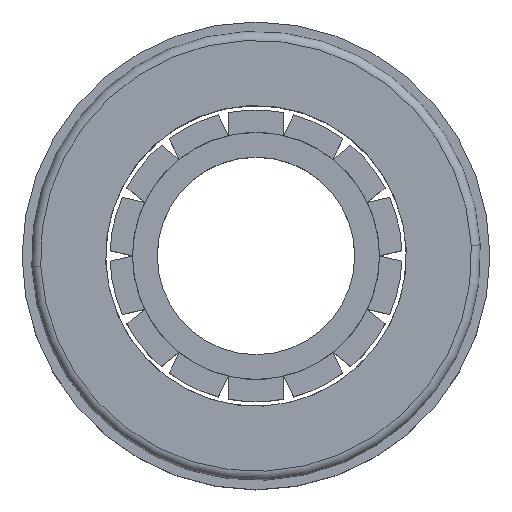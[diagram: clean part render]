
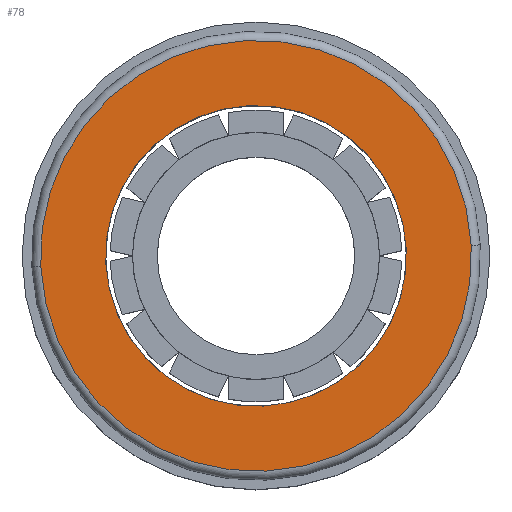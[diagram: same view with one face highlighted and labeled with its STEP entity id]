
A CAD part, top view. The second image highlights one B-rep face of the part: STEP entity #78.
In plain terms, the highlighted planar face has unit normal (0, 0, 1).
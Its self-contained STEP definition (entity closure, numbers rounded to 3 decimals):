
#78 = ADVANCED_FACE ( 'NONE', ( #631, #2009 ), #784, .T. ) ;
#89 = VERTEX_POINT ( 'NONE', #1174 ) ;
#288 = CARTESIAN_POINT ( 'NONE',  ( 0., 0., 4. ) ) ;
#320 = CARTESIAN_POINT ( 'NONE',  ( 0., 0., 4. ) ) ;
#354 = CARTESIAN_POINT ( 'NONE',  ( 0., 0., 4. ) ) ;
#366 = CARTESIAN_POINT ( 'NONE',  ( 24., 0., 4. ) ) ;
#370 = EDGE_CURVE ( 'NONE', #966, #1006, #573, .T. ) ;
#522 = DIRECTION ( 'NONE',  ( 0., 0., 1. ) ) ;
#566 = AXIS2_PLACEMENT_3D ( 'NONE', #320, #1952, #1212 ) ;
#573 = CIRCLE ( 'NONE', #1689, 24. ) ;
#579 = EDGE_CURVE ( 'NONE', #89, #1482, #918, .T. ) ;
#631 = FACE_OUTER_BOUND ( 'NONE', #1852, .T. ) ;
#675 = ORIENTED_EDGE ( 'NONE', *, *, #1701, .T. ) ;
#679 = EDGE_LOOP ( 'NONE', ( #1113, #2255 ) ) ;
#730 = EDGE_CURVE ( 'NONE', #1482, #89, #1888, .T. ) ;
#746 = CARTESIAN_POINT ( 'NONE',  ( 16.75, 0., 4. ) ) ;
#780 = AXIS2_PLACEMENT_3D ( 'NONE', #1865, #1841, #2066 ) ;
#784 = PLANE ( 'NONE',  #780 ) ;
#791 = ORIENTED_EDGE ( 'NONE', *, *, #370, .T. ) ;
#811 = AXIS2_PLACEMENT_3D ( 'NONE', #354, #522, #1451 ) ;
#918 = CIRCLE ( 'NONE', #566, 16.75 ) ;
#966 = VERTEX_POINT ( 'NONE', #2167 ) ;
#1006 = VERTEX_POINT ( 'NONE', #366 ) ;
#1113 = ORIENTED_EDGE ( 'NONE', *, *, #579, .F. ) ;
#1174 = CARTESIAN_POINT ( 'NONE',  ( -16.75, 0., 4. ) ) ;
#1212 = DIRECTION ( 'NONE',  ( 1., 0., 0. ) ) ;
#1419 = DIRECTION ( 'NONE',  ( 0., 0., 1. ) ) ;
#1451 = DIRECTION ( 'NONE',  ( 1., 0., 0. ) ) ;
#1482 = VERTEX_POINT ( 'NONE', #746 ) ;
#1540 = DIRECTION ( 'NONE',  ( 1., 0., 0. ) ) ;
#1576 = DIRECTION ( 'NONE',  ( 1., 0., 0. ) ) ;
#1604 = CIRCLE ( 'NONE', #2159, 24. ) ;
#1689 = AXIS2_PLACEMENT_3D ( 'NONE', #288, #1419, #1576 ) ;
#1701 = EDGE_CURVE ( 'NONE', #1006, #966, #1604, .T. ) ;
#1712 = CARTESIAN_POINT ( 'NONE',  ( 0., 0., 4. ) ) ;
#1841 = DIRECTION ( 'NONE',  ( 0., 0., 1. ) ) ;
#1852 = EDGE_LOOP ( 'NONE', ( #675, #791 ) ) ;
#1865 = CARTESIAN_POINT ( 'NONE',  ( 0., 0., 4. ) ) ;
#1888 = CIRCLE ( 'NONE', #811, 16.75 ) ;
#1952 = DIRECTION ( 'NONE',  ( 0., 0., 1. ) ) ;
#2009 = FACE_BOUND ( 'NONE', #679, .T. ) ;
#2066 = DIRECTION ( 'NONE',  ( 1., 0., 0. ) ) ;
#2103 = DIRECTION ( 'NONE',  ( 0., 0., 1. ) ) ;
#2159 = AXIS2_PLACEMENT_3D ( 'NONE', #1712, #2103, #1540 ) ;
#2167 = CARTESIAN_POINT ( 'NONE',  ( -24., 0., 4. ) ) ;
#2255 = ORIENTED_EDGE ( 'NONE', *, *, #730, .F. ) ;
